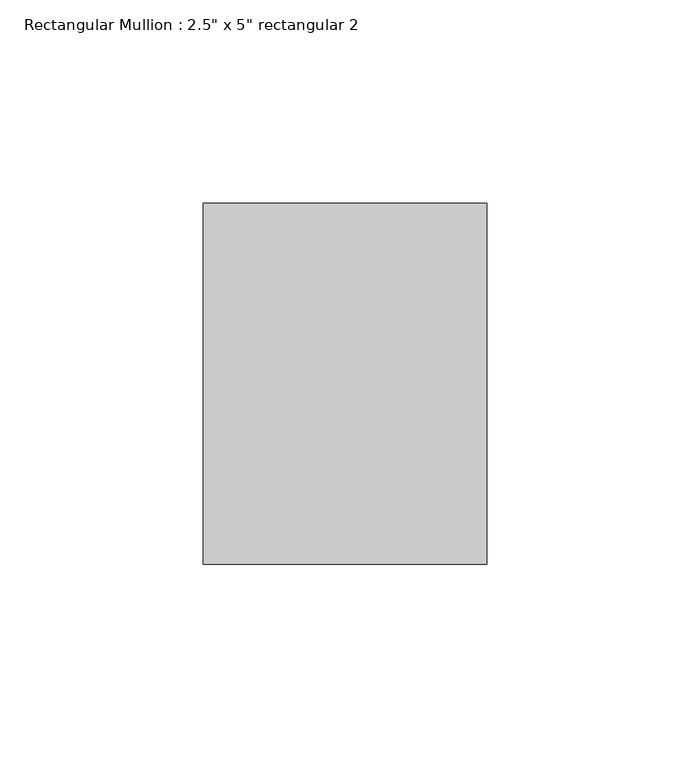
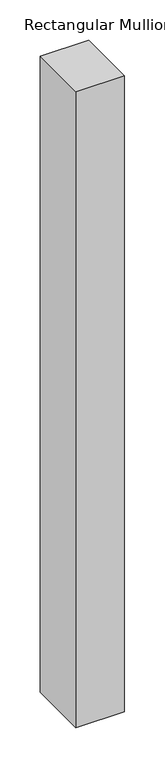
"""IFC4 building model written with IfcOpenShell, lengths in millimetres: member geometry."""

import ifcopenshell
import ifcopenshell.guid

model = None  # the IFC model being written
_history = None  # IfcOwnerHistory: only IFC2X3 demands one
_inside = {}  # id of a spatial element -> (the spatial element, [elements in it])
_under = {}  # id of a project, library or spatial element -> (it, [spatial elements below it])
_declared = {}  # id of a project -> (the project, [libraries it declares])
_typed = {}  # id of a type object -> (the type object, [elements of that type])
_made_of = {}  # id of a material, layer set ... -> (it, [elements and type objects made of it])


def new_model(schema):
    """Start an empty IFC model of exactly this schema.

    Asked for "IFC4X3", IfcOpenShell would pick the latest addendum, in which some entities
    have other attributes; the version numbers below select the first issue.
    IFC2X3 requires an IfcOwnerHistory on every rooted entity: one is made here for all.
    """
    global model, _history
    if schema == "IFC4X3":
        model = ifcopenshell.file(schema_version=(4, 3, 0, 0))
    else:
        model = ifcopenshell.file(schema=schema)
    _inside.clear()
    _under.clear()
    _declared.clear()
    _typed.clear()
    _made_of.clear()
    _history = None
    if model.schema == "IFC2X3":
        org = make("IfcOrganization", Name="unknown")
        user = make(
            "IfcPersonAndOrganization",
            ThePerson=make("IfcPerson", FamilyName="unknown"),
            TheOrganization=org,
        )
        app = make(
            "IfcApplication",
            ApplicationDeveloper=org,
            Version="unknown",
            ApplicationFullName="unknown",
            ApplicationIdentifier="unknown",
        )
        _history = make(
            "IfcOwnerHistory",
            OwningUser=user,
            OwningApplication=app,
            ChangeAction="ADDED",
            CreationDate=0,
        )
    return model


def make(cls, **values):
    """One entity of the class cls with the attributes given. An attribute that is None is left unset."""
    return model.create_entity(
        cls, **{name: value for name, value in values.items() if value is not None}
    )


def rooted(cls, **values):
    """An entity with a GlobalId (a new one), such as an element, a storey or a relation."""
    return make(cls, GlobalId=ifcopenshell.guid.new(), OwnerHistory=_history, **values)


def si_unit(unit_type, name, prefix=None):
    """IfcSIUnit, for example si_unit("LENGTHUNIT", "METRE", prefix="MILLI")."""
    return make("IfcSIUnit", UnitType=unit_type, Prefix=prefix, Name=name)


def assignment(units):
    """IfcUnitAssignment: the units of a project."""
    return None if units is None else make("IfcUnitAssignment", Units=units)


def point(xyz):
    """IfcCartesianPoint."""
    return None if xyz is None else make("IfcCartesianPoint", Coordinates=xyz)


def direction(xyz):
    """IfcDirection."""
    return None if xyz is None else make("IfcDirection", DirectionRatios=xyz)


def frame(location, z_axis=None, x_axis=None):
    """IfcAxis2Placement3D, a coordinate frame: its origin and axes. An axis left out is left unset."""
    return make(
        "IfcAxis2Placement3D",
        Location=point(location),
        Axis=direction(z_axis),
        RefDirection=direction(x_axis),
    )


def origin():
    """The frame at (0, 0, 0) with its axes left unset."""
    return frame((0.0, 0.0, 0.0))


def place(relative_to, where):
    """IfcLocalPlacement: puts the frame where relative to a parent placement (None: the world)."""
    return make(
        "IfcLocalPlacement", PlacementRelTo=relative_to, RelativePlacement=where
    )


def context(
    kind, dimensions, precision=None, world=None, true_north=None, identifier=None
):
    """IfcGeometricRepresentationContext, for example the 3D "Model" context."""
    return make(
        "IfcGeometricRepresentationContext",
        ContextIdentifier=identifier,
        ContextType=kind,
        CoordinateSpaceDimension=dimensions,
        Precision=precision,
        WorldCoordinateSystem=world,
        TrueNorth=true_north,
    )


def project(units=None, contexts=None):
    """IfcProject with its units and contexts."""
    return rooted(
        "IfcProject",
        Name="project",
        RepresentationContexts=contexts,
        UnitsInContext=assignment(units),
    )


def spatial(cls, under=None, at=None, **own):
    """A site, building, storey or space (cls), placed at a placement, below another one or the project."""
    s = rooted(cls, ObjectPlacement=at, **own)
    if under is not None:
        _under.setdefault(under.id(), (under, []))[1].append(s)
    return s


def polyline(points):
    """IfcPolyline through the points."""
    return make("IfcPolyline", Points=[point(p) for p in points])


def outline(outer, holes=None, kind="AREA"):
    """IfcArbitraryClosedProfileDef: a profile drawn as a closed curve; with holes, ...WithVoids."""
    if holes is None:
        return make("IfcArbitraryClosedProfileDef", ProfileType=kind, OuterCurve=outer)
    return make(
        "IfcArbitraryProfileDefWithVoids",
        ProfileType=kind,
        OuterCurve=outer,
        InnerCurves=holes,
    )


def extrude(swept, where, along, depth):
    """IfcExtrudedAreaSolid: the profile swept, set in the frame where, extruded along a direction by depth."""
    return make(
        "IfcExtrudedAreaSolid",
        SweptArea=swept,
        Position=where,
        ExtrudedDirection=direction(along),
        Depth=depth,
    )


def shape(context_of_items, identifier, shape_type, items):
    """IfcShapeRepresentation: the items that make up one representation, for example the "Body"."""
    return make(
        "IfcShapeRepresentation",
        ContextOfItems=context_of_items,
        RepresentationIdentifier=identifier,
        RepresentationType=shape_type,
        Items=items,
    )


def source(mapping_origin, context_of_items, identifier, shape_type, items):
    """IfcRepresentationMap: a shape defined once, which mapped items show again and again."""
    return make(
        "IfcRepresentationMap",
        MappingOrigin=mapping_origin,
        MappedRepresentation=shape(context_of_items, identifier, shape_type, items),
    )


def transform(
    local_origin,
    x_axis=None,
    y_axis=None,
    z_axis=None,
    scale=None,
    scale2=None,
    scale3=None,
    uniform=True,
):
    """IfcCartesianTransformationOperator3D, or its non-uniform kind. x_axis, y_axis, z_axis: its Axis1, 2, 3."""
    if uniform:
        return make(
            "IfcCartesianTransformationOperator3D",
            Axis1=direction(x_axis),
            Axis2=direction(y_axis),
            LocalOrigin=point(local_origin),
            Scale=scale,
            Axis3=direction(z_axis),
        )
    return make(
        "IfcCartesianTransformationOperator3DnonUniform",
        Axis1=direction(x_axis),
        Axis2=direction(y_axis),
        LocalOrigin=point(local_origin),
        Scale=scale,
        Axis3=direction(z_axis),
        Scale2=scale2,
        Scale3=scale3,
    )


def mapped(mapping_source, mapping_target):
    """IfcMappedItem: shows the shape of a source again, moved by a transform."""
    return make(
        "IfcMappedItem", MappingSource=mapping_source, MappingTarget=mapping_target
    )


def made_of(thing, what):
    """Note that an element or type object is made of a material, layer set ...; save() writes the relation."""
    if what is not None:
        _made_of.setdefault(what.id(), (what, []))[1].append(thing)
    return thing


def element(
    cls,
    number,
    at=None,
    inside=None,
    cuts=None,
    type_object=None,
    material=None,
    context=None,
    identifier="Body",
    shape_type=None,
    held_by="IfcProductDefinitionShape",
    body=None,
    shapes=None,
    **own,
):
    """One element of the class cls, such as IfcWall. Its Tag is "e" and its number.

    at: its placement. inside: the storey or other place that contains it. cuts: it is an
    opening in that element (IfcRelVoidsElement). A single representation is given by context,
    identifier, shape_type and body (its items); several are given by shapes. held_by: the class
    of the entity that holds the representations. save() writes the other relations.
    """
    e = rooted(cls, Tag="e%d" % number, ObjectPlacement=at, **own)
    if body is not None:
        shapes = [shape(context, identifier, shape_type, body)]
    if shapes is not None:
        e.Representation = make(held_by, Representations=shapes)
    if inside is not None:
        _inside.setdefault(inside.id(), (inside, []))[1].append(e)
    if cuts is not None:
        rooted(
            "IfcRelVoidsElement", RelatingBuildingElement=cuts, RelatedOpeningElement=e
        )
    if type_object is not None:
        _typed.setdefault(type_object.id(), (type_object, []))[1].append(e)
    return made_of(e, material)


def aggregate(whole, parts):
    """IfcRelAggregates: a whole, such as a stair, and the parts it consists of."""
    return rooted("IfcRelAggregates", RelatingObject=whole, RelatedObjects=parts)


def save(model, path):
    """Write the relations noted so far, then the file.

    IfcRelAggregates (storeys below a building ...), IfcRelContainedInSpatialStructure (elements
    in a storey), IfcRelDefinesByType, IfcRelAssociatesMaterial and IfcRelDeclares: one each for
    every whole, place, type object, material and project.
    """
    for whole, parts in _under.values():
        aggregate(whole, parts)
    for where, things in _inside.values():
        rooted(
            "IfcRelContainedInSpatialStructure",
            RelatedElements=things,
            RelatingStructure=where,
        )
    for kind, things in _typed.values():
        rooted("IfcRelDefinesByType", RelatedObjects=things, RelatingType=kind)
    for what, things in _made_of.values():
        rooted("IfcRelAssociatesMaterial", RelatedObjects=things, RelatingMaterial=what)
    for by, libraries in _declared.values():
        rooted("IfcRelDeclares", RelatingContext=by, RelatedDefinitions=libraries)
    model.write(path)


def member_04a255ce(model_context):
    return source(origin(), model_context, "Body", "SweptSolid", [
        extrude(outline(polyline([(0.0, 44.45), (0.0, -44.45), (-69.85, -44.45), (-69.85, 44.45), (0.0, 44.45)])), frame((0.0, 0.0, -967.5488049), z_axis=(0.0, 0.0, 1.0), x_axis=(1.0, 0.0, 0.0)), (0.0, 0.0, 1.0), 967.5488049),
    ])


if __name__ == "__main__":
    model = new_model("IFC4")
    model_context = context("Model", 3, world=origin())
    ifc_project = project(units=[si_unit("LENGTHUNIT", "METRE", prefix="MILLI")], contexts=[model_context])
    site = spatial("IfcSite", under=ifc_project)
    building = spatial("IfcBuilding", under=site)
    placement = place(None, origin())
    member_shape = member_04a255ce(model_context)
    element("IfcMember", 1, ObjectType="Rectangular Mullion : 2.5\" x 5\" rectangular 2", at=placement, inside=building, context=model_context, shape_type="MappedRepresentation", body=[
        mapped(member_shape, transform((0.0, 0.0, 0.0), x_axis=(1.0, 0.0, 0.0), y_axis=(0.0, 1.0, 0.0), z_axis=(0.0, 0.0, 1.0))),
    ])
    save(model, "model.ifc")
